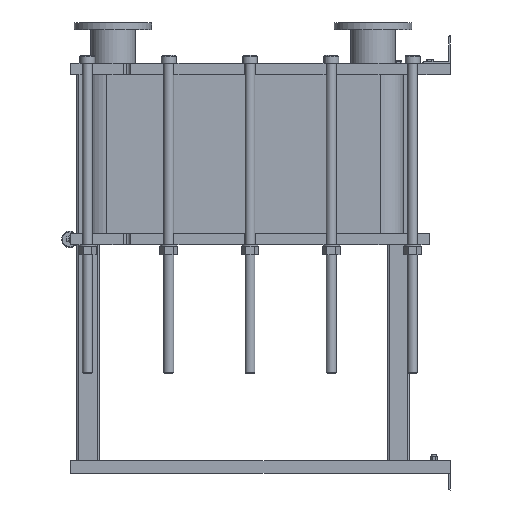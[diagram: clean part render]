
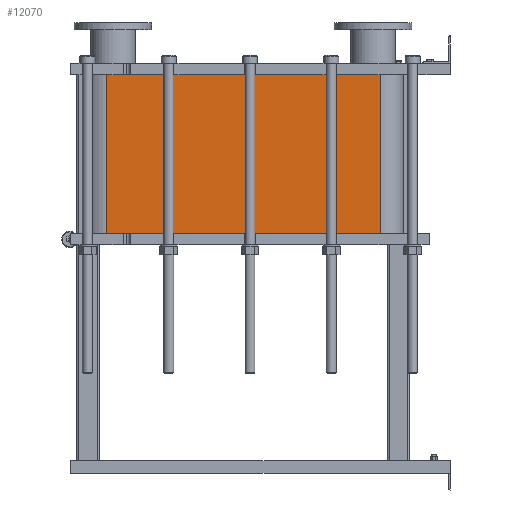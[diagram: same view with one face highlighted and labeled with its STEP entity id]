
A CAD part, left-side view. The second image highlights one B-rep face of the part: STEP entity #12070.
In plain terms, the highlighted planar face has unit normal (-1, 0, 0).
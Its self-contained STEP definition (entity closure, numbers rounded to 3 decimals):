
#1064=LINE('',#21140,#2164);
#1065=LINE('',#21144,#2165);
#1066=LINE('',#21146,#2166);
#1067=LINE('',#21147,#2167);
#2164=VECTOR('',#15790,10.);
#2165=VECTOR('',#15795,10.);
#2166=VECTOR('',#15796,10.);
#2167=VECTOR('',#15797,10.);
#3304=FACE_OUTER_BOUND('',#4091,.T.);
#4091=EDGE_LOOP('',(#9793,#9794,#9795,#9796));
#5677=VERTEX_POINT('',#21137);
#5678=VERTEX_POINT('',#21139);
#5679=VERTEX_POINT('',#21143);
#5680=VERTEX_POINT('',#21145);
#7118=EDGE_CURVE('',#5678,#5677,#1064,.T.);
#7120=EDGE_CURVE('',#5677,#5679,#1065,.T.);
#7121=EDGE_CURVE('',#5680,#5679,#1066,.T.);
#7122=EDGE_CURVE('',#5680,#5678,#1067,.T.);
#9793=ORIENTED_EDGE('',*,*,#7120,.T.);
#9794=ORIENTED_EDGE('',*,*,#7121,.F.);
#9795=ORIENTED_EDGE('',*,*,#7122,.T.);
#9796=ORIENTED_EDGE('',*,*,#7118,.T.);
#11441=PLANE('',#13191);
#12070=ADVANCED_FACE('',(#3304),#11441,.T.);
#13191=AXIS2_PLACEMENT_3D('',#21142,#15793,#15794);
#15790=DIRECTION('',(0.,0.,-1.));
#15793=DIRECTION('center_axis',(-1.,0.,0.));
#15794=DIRECTION('ref_axis',(0.,1.,0.));
#15795=DIRECTION('',(0.,-1.,0.));
#15796=DIRECTION('',(0.,0.,-1.));
#15797=DIRECTION('',(0.,1.,0.));
#21137=CARTESIAN_POINT('',(-248.152,1243.818,-576.15));
#21139=CARTESIAN_POINT('',(-248.152,1243.818,0.));
#21140=CARTESIAN_POINT('',(-248.152,1243.818,0.));
#21142=CARTESIAN_POINT('Origin',(-248.152,251.818,0.));
#21143=CARTESIAN_POINT('',(-248.152,251.818,-576.15));
#21144=CARTESIAN_POINT('',(-248.152,499.818,-576.15));
#21145=CARTESIAN_POINT('',(-248.152,251.818,0.));
#21146=CARTESIAN_POINT('',(-248.152,251.818,0.));
#21147=CARTESIAN_POINT('',(-248.152,251.818,0.));
